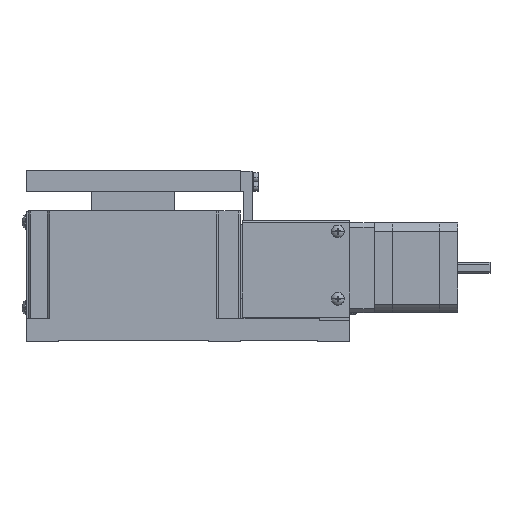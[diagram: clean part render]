
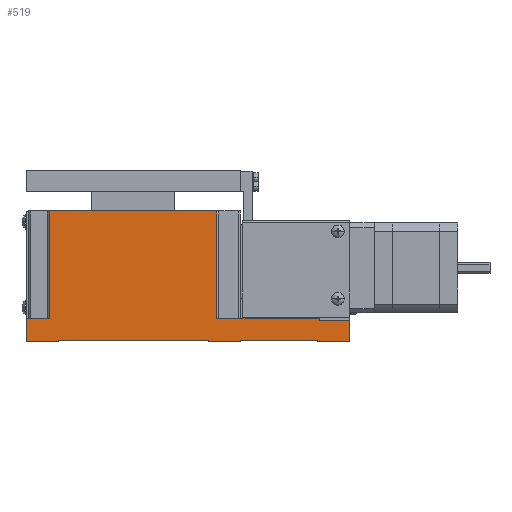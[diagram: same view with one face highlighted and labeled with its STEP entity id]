
A CAD part, front view. The second image highlights one B-rep face of the part: STEP entity #519.
In plain terms, the highlighted planar face has unit normal (0, -1, 0) as drawn and (0, 1, 0) by its records, which use the part's own axes.
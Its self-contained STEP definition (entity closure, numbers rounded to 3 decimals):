
#408 = LINE ( 'NONE', #8351, #5248 ) ;
#414 = EDGE_CURVE ( 'NONE', #9442, #16181, #26378, .T. ) ;
#434 = DIRECTION ( 'NONE',  ( 1., 0., 0. ) ) ;
#436 = CARTESIAN_POINT ( 'NONE',  ( 47.954, -195.588, 80. ) ) ;
#519 = ADVANCED_FACE ( 'NONE', ( #37391 ), #24728, .T. ) ;
#563 = AXIS2_PLACEMENT_3D ( 'NONE', #55844, #46366, #3176 ) ;
#692 = VECTOR ( 'NONE', #34467, 1000. ) ;
#718 = EDGE_CURVE ( 'NONE', #41894, #56262, #29071, .T. ) ;
#1799 = ORIENTED_EDGE ( 'NONE', *, *, #25730, .F. ) ;
#2276 = VECTOR ( 'NONE', #56712, 1000. ) ;
#2395 = DIRECTION ( 'NONE',  ( 0., 0., 1. ) ) ;
#2790 = VECTOR ( 'NONE', #24672, 1000. ) ;
#3176 = DIRECTION ( 'NONE',  ( -1., 0., 0. ) ) ;
#3335 = DIRECTION ( 'NONE',  ( 0., 0., 1. ) ) ;
#3994 = ORIENTED_EDGE ( 'NONE', *, *, #30455, .T. ) ;
#4323 = CARTESIAN_POINT ( 'NONE',  ( 187.954, -195.588, 141. ) ) ;
#4606 = CARTESIAN_POINT ( 'NONE',  ( 198.954, -195.588, 91. ) ) ;
#4732 = CARTESIAN_POINT ( 'NONE',  ( 187.954, -195.588, 141. ) ) ;
#5106 = VECTOR ( 'NONE', #54120, 1000. ) ;
#5248 = VECTOR ( 'NONE', #34917, 1000. ) ;
#5577 = DIRECTION ( 'NONE',  ( 0., 0., 1. ) ) ;
#5932 = ORIENTED_EDGE ( 'NONE', *, *, #414, .T. ) ;
#6393 = VECTOR ( 'NONE', #47526, 1000. ) ;
#6525 = VERTEX_POINT ( 'NONE', #12457 ) ;
#6797 = VECTOR ( 'NONE', #23173, 1000. ) ;
#6926 = CARTESIAN_POINT ( 'NONE',  ( 47.954, -195.588, 80. ) ) ;
#7211 = VECTOR ( 'NONE', #3335, 1000. ) ;
#8140 = LINE ( 'NONE', #4732, #26003 ) ;
#8351 = CARTESIAN_POINT ( 'NONE',  ( 108.954, -195.588, 141. ) ) ;
#8420 = EDGE_CURVE ( 'NONE', #51981, #12702, #51586, .T. ) ;
#9160 = DIRECTION ( 'NONE',  ( 0., 0., -1. ) ) ;
#9442 = VERTEX_POINT ( 'NONE', #15155 ) ;
#10292 = DIRECTION ( 'NONE',  ( 1., 0., 0. ) ) ;
#10460 = CARTESIAN_POINT ( 'NONE',  ( 113.954, -195.588, 80.5 ) ) ;
#10503 = EDGE_CURVE ( 'NONE', #42953, #9442, #19084, .T. ) ;
#10520 = CARTESIAN_POINT ( 'NONE',  ( 62.954, -195.588, 80.5 ) ) ;
#11386 = VECTOR ( 'NONE', #5577, 1000. ) ;
#12309 = CARTESIAN_POINT ( 'NONE',  ( 183.954, -195.588, 80.5 ) ) ;
#12387 = CARTESIAN_POINT ( 'NONE',  ( 113.954, -195.588, 80. ) ) ;
#12457 = CARTESIAN_POINT ( 'NONE',  ( 109.954, -195.588, 91. ) ) ;
#12702 = VERTEX_POINT ( 'NONE', #12387 ) ;
#14421 = CARTESIAN_POINT ( 'NONE',  ( 109.954, -195.588, 141. ) ) ;
#15117 = EDGE_CURVE ( 'NONE', #26976, #6525, #22752, .T. ) ;
#15155 = CARTESIAN_POINT ( 'NONE',  ( 47.954, -195.588, 90. ) ) ;
#15998 = VECTOR ( 'NONE', #20190, 1000. ) ;
#16181 = VERTEX_POINT ( 'NONE', #46142 ) ;
#16369 = ORIENTED_EDGE ( 'NONE', *, *, #17029, .F. ) ;
#16543 = ORIENTED_EDGE ( 'NONE', *, *, #36119, .T. ) ;
#16747 = DIRECTION ( 'NONE',  ( 1., 0., 0. ) ) ;
#17029 = EDGE_CURVE ( 'NONE', #38171, #25251, #23598, .T. ) ;
#18066 = LINE ( 'NONE', #32629, #51907 ) ;
#18319 = ORIENTED_EDGE ( 'NONE', *, *, #10503, .T. ) ;
#18587 = ORIENTED_EDGE ( 'NONE', *, *, #15117, .T. ) ;
#18982 = DIRECTION ( 'NONE',  ( 1., 0., 0. ) ) ;
#19084 = LINE ( 'NONE', #28628, #21118 ) ;
#19779 = CARTESIAN_POINT ( 'NONE',  ( 109.954, -195.588, 141. ) ) ;
#20190 = DIRECTION ( 'NONE',  ( 1., 0., 0. ) ) ;
#20474 = EDGE_CURVE ( 'NONE', #25251, #38986, #51625, .T. ) ;
#21118 = VECTOR ( 'NONE', #33449, 1000. ) ;
#21741 = ORIENTED_EDGE ( 'NONE', *, *, #31058, .F. ) ;
#22285 = ORIENTED_EDGE ( 'NONE', *, *, #37694, .F. ) ;
#22752 = LINE ( 'NONE', #41080, #44874 ) ;
#23173 = DIRECTION ( 'NONE',  ( 1., 0., 0. ) ) ;
#23598 = LINE ( 'NONE', #52824, #2276 ) ;
#23720 = CARTESIAN_POINT ( 'NONE',  ( 198.954, -195.588, 80. ) ) ;
#24187 = ORIENTED_EDGE ( 'NONE', *, *, #44815, .T. ) ;
#24453 = LINE ( 'NONE', #14421, #11386 ) ;
#24672 = DIRECTION ( 'NONE',  ( 0., 0., 1. ) ) ;
#24728 = PLANE ( 'NONE',  #563 ) ;
#25251 = VERTEX_POINT ( 'NONE', #41644 ) ;
#25730 = EDGE_CURVE ( 'NONE', #42953, #54722, #53991, .T. ) ;
#25965 = CARTESIAN_POINT ( 'NONE',  ( 47.954, -195.588, 80. ) ) ;
#26003 = VECTOR ( 'NONE', #9160, 1000. ) ;
#26378 = LINE ( 'NONE', #46192, #33956 ) ;
#26420 = LINE ( 'NONE', #28007, #5106 ) ;
#26502 = EDGE_CURVE ( 'NONE', #38452, #41904, #29689, .T. ) ;
#26892 = EDGE_CURVE ( 'NONE', #38986, #56262, #55940, .T. ) ;
#26976 = VERTEX_POINT ( 'NONE', #43566 ) ;
#28007 = CARTESIAN_POINT ( 'NONE',  ( 113.954, -195.588, 80. ) ) ;
#28628 = CARTESIAN_POINT ( 'NONE',  ( 47.954, -195.588, 80. ) ) ;
#28965 = CARTESIAN_POINT ( 'NONE',  ( 98.954, -195.588, 80.5 ) ) ;
#29071 = LINE ( 'NONE', #34167, #6393 ) ;
#29634 = CARTESIAN_POINT ( 'NONE',  ( 113.954, -195.588, 80.5 ) ) ;
#29689 = LINE ( 'NONE', #48287, #51835 ) ;
#30122 = VECTOR ( 'NONE', #37104, 1000. ) ;
#30455 = EDGE_CURVE ( 'NONE', #6525, #33891, #24453, .T. ) ;
#30834 = VECTOR ( 'NONE', #16747, 1000. ) ;
#31058 = EDGE_CURVE ( 'NONE', #12702, #38969, #26420, .T. ) ;
#32629 = CARTESIAN_POINT ( 'NONE',  ( 61.954, -195.588, 80. ) ) ;
#33449 = DIRECTION ( 'NONE',  ( 0., 0., 1. ) ) ;
#33749 = CARTESIAN_POINT ( 'NONE',  ( 62.954, -195.588, 80. ) ) ;
#33891 = VERTEX_POINT ( 'NONE', #19779 ) ;
#33956 = VECTOR ( 'NONE', #18982, 1000. ) ;
#34167 = CARTESIAN_POINT ( 'NONE',  ( 47.954, -195.588, 91. ) ) ;
#34339 = ORIENTED_EDGE ( 'NONE', *, *, #42564, .F. ) ;
#34467 = DIRECTION ( 'NONE',  ( 1., 0., 0. ) ) ;
#34917 = DIRECTION ( 'NONE',  ( 1., 0., 0. ) ) ;
#35136 = CARTESIAN_POINT ( 'NONE',  ( 98.954, -195.588, 80. ) ) ;
#35594 = EDGE_CURVE ( 'NONE', #37354, #41894, #8140, .T. ) ;
#35898 = CARTESIAN_POINT ( 'NONE',  ( 47.954, -195.588, 80. ) ) ;
#36119 = EDGE_CURVE ( 'NONE', #33891, #37354, #408, .T. ) ;
#36206 = CARTESIAN_POINT ( 'NONE',  ( 187.954, -195.588, 91. ) ) ;
#37104 = DIRECTION ( 'NONE',  ( 0., 0., -1. ) ) ;
#37354 = VERTEX_POINT ( 'NONE', #4323 ) ;
#37391 = FACE_OUTER_BOUND ( 'NONE', #38765, .T. ) ;
#37694 = EDGE_CURVE ( 'NONE', #54722, #38452, #55551, .T. ) ;
#37909 = LINE ( 'NONE', #29634, #692 ) ;
#38171 = VERTEX_POINT ( 'NONE', #12309 ) ;
#38452 = VERTEX_POINT ( 'NONE', #10520 ) ;
#38765 = EDGE_LOOP ( 'NONE', ( #3994, #16543, #54852, #44517, #57244, #55369, #16369, #43846, #21741, #56862, #34339, #41414, #22285, #1799, #18319, #5932, #24187, #18587 ) ) ;
#38969 = VERTEX_POINT ( 'NONE', #10460 ) ;
#38986 = VERTEX_POINT ( 'NONE', #23720 ) ;
#41080 = CARTESIAN_POINT ( 'NONE',  ( 47.954, -195.588, 91. ) ) ;
#41414 = ORIENTED_EDGE ( 'NONE', *, *, #26502, .F. ) ;
#41644 = CARTESIAN_POINT ( 'NONE',  ( 183.954, -195.588, 80. ) ) ;
#41894 = VERTEX_POINT ( 'NONE', #36206 ) ;
#41904 = VERTEX_POINT ( 'NONE', #46089 ) ;
#42221 = CARTESIAN_POINT ( 'NONE',  ( 198.954, -195.588, 80. ) ) ;
#42564 = EDGE_CURVE ( 'NONE', #41904, #51981, #53663, .T. ) ;
#42953 = VERTEX_POINT ( 'NONE', #436 ) ;
#43566 = CARTESIAN_POINT ( 'NONE',  ( 61.954, -195.588, 91. ) ) ;
#43846 = ORIENTED_EDGE ( 'NONE', *, *, #45540, .F. ) ;
#44517 = ORIENTED_EDGE ( 'NONE', *, *, #718, .T. ) ;
#44815 = EDGE_CURVE ( 'NONE', #16181, #26976, #18066, .T. ) ;
#44874 = VECTOR ( 'NONE', #10292, 1000. ) ;
#45540 = EDGE_CURVE ( 'NONE', #38969, #38171, #37909, .T. ) ;
#46089 = CARTESIAN_POINT ( 'NONE',  ( 98.954, -195.588, 80.5 ) ) ;
#46142 = CARTESIAN_POINT ( 'NONE',  ( 61.954, -195.588, 90. ) ) ;
#46192 = CARTESIAN_POINT ( 'NONE',  ( 47.954, -195.588, 90. ) ) ;
#46366 = DIRECTION ( 'NONE',  ( 0., 1., 0. ) ) ;
#47526 = DIRECTION ( 'NONE',  ( 1., 0., 0. ) ) ;
#48287 = CARTESIAN_POINT ( 'NONE',  ( 62.954, -195.588, 80.5 ) ) ;
#49320 = CARTESIAN_POINT ( 'NONE',  ( 62.954, -195.588, 80. ) ) ;
#51586 = LINE ( 'NONE', #25965, #30834 ) ;
#51625 = LINE ( 'NONE', #35898, #6797 ) ;
#51835 = VECTOR ( 'NONE', #434, 1000. ) ;
#51907 = VECTOR ( 'NONE', #2395, 1000. ) ;
#51981 = VERTEX_POINT ( 'NONE', #35136 ) ;
#52824 = CARTESIAN_POINT ( 'NONE',  ( 183.954, -195.588, 80.5 ) ) ;
#53663 = LINE ( 'NONE', #28965, #30122 ) ;
#53991 = LINE ( 'NONE', #6926, #15998 ) ;
#54120 = DIRECTION ( 'NONE',  ( 0., 0., 1. ) ) ;
#54722 = VERTEX_POINT ( 'NONE', #49320 ) ;
#54852 = ORIENTED_EDGE ( 'NONE', *, *, #35594, .T. ) ;
#55369 = ORIENTED_EDGE ( 'NONE', *, *, #20474, .F. ) ;
#55551 = LINE ( 'NONE', #33749, #7211 ) ;
#55844 = CARTESIAN_POINT ( 'NONE',  ( 47.954, -195.588, 80. ) ) ;
#55940 = LINE ( 'NONE', #42221, #2790 ) ;
#56262 = VERTEX_POINT ( 'NONE', #4606 ) ;
#56712 = DIRECTION ( 'NONE',  ( 0., 0., -1. ) ) ;
#56862 = ORIENTED_EDGE ( 'NONE', *, *, #8420, .F. ) ;
#57244 = ORIENTED_EDGE ( 'NONE', *, *, #26892, .F. ) ;
